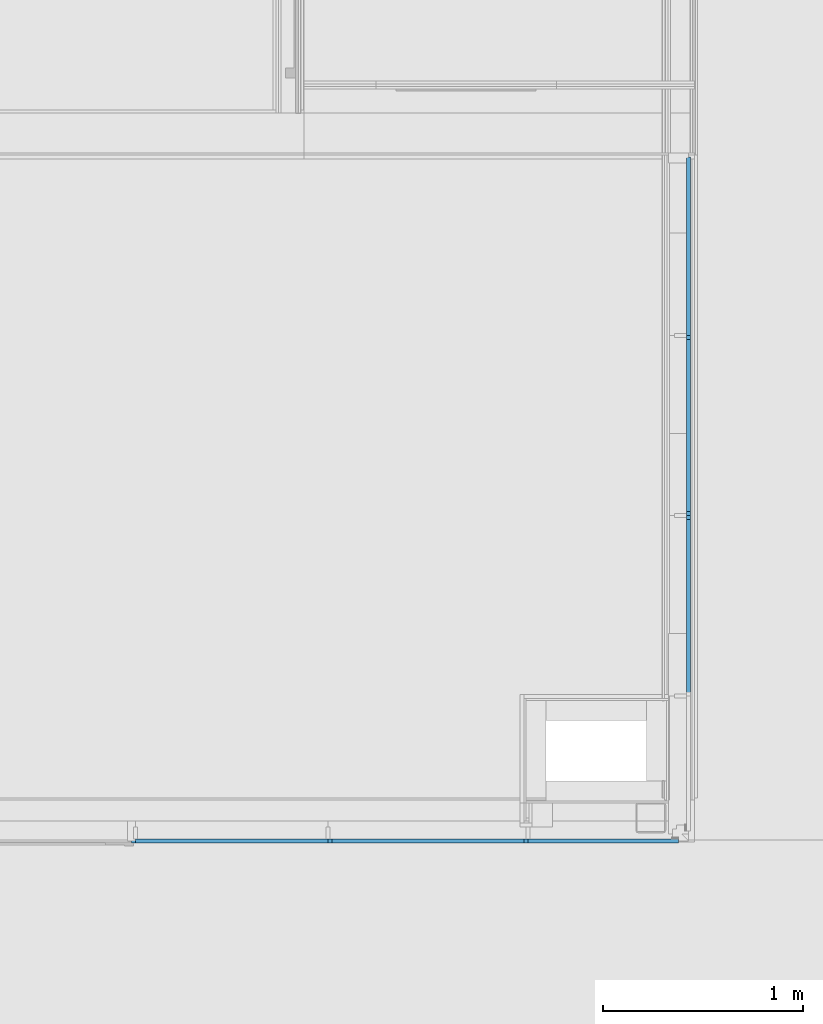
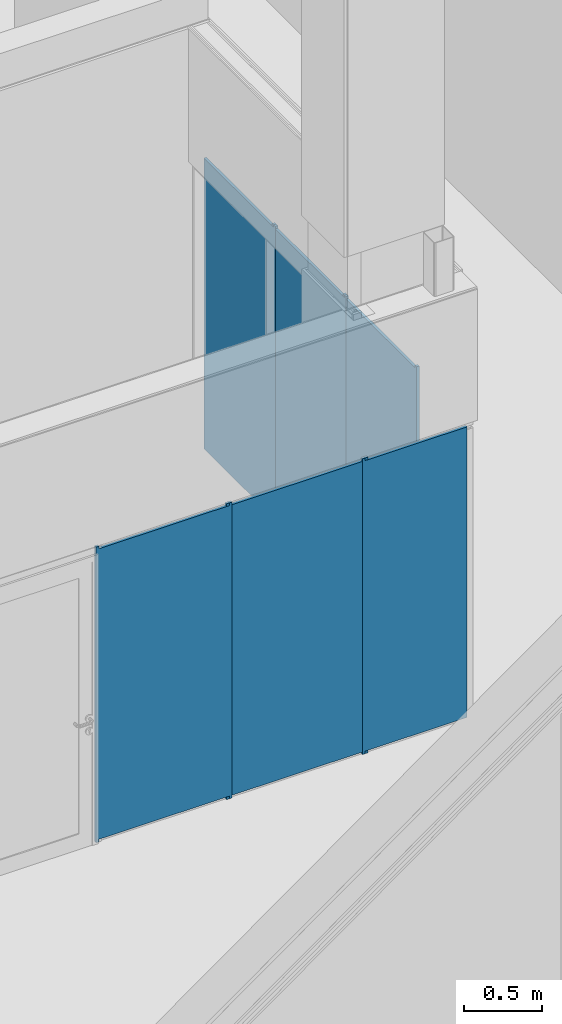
# One storey, part 19 of 139: 6 plates, 1 element without a shape of its own.
"""IFC2X3 building model written with IfcOpenShell, lengths in millimetres."""

from ifc_helpers import new_model, entity, si_unit, converted_unit, derived_unit, money_unit, direction, frame, origin_with_axes, place, context, subcontext, project, spatial, faceted_brep, source, transform, mapped, material, type_object, element, aggregate, save


model = new_model("IFC2X3")

# Units and contexts
model_context = context("Model", 3, precision=0.01, world=origin_with_axes(), true_north=direction((0.0, 1.0)))
body_context = subcontext(model_context, "Body", "Model", "MODEL_VIEW")
ifc_project = project(units=[si_unit("LENGTHUNIT", "METRE", prefix="MILLI"), si_unit("AREAUNIT", "SQUARE_METRE"), si_unit("VOLUMEUNIT", "CUBIC_METRE"), converted_unit("PLANEANGLEUNIT", "DEGREE", entity("IfcPlaneAngleMeasure", 0.0174532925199), si_unit("PLANEANGLEUNIT", "RADIAN"), dimensions=[0, 0, 0, 0, 0, 0, 0]), money_unit("EUR"), converted_unit("TIMEUNIT", "Year", entity("IfcTimeMeasure", 31556926.0), si_unit("TIMEUNIT", "SECOND"), dimensions=[0, 0, 1, 0, 0, 0, 0]), si_unit("MASSUNIT", "GRAM", prefix="KILO"), si_unit("THERMODYNAMICTEMPERATUREUNIT", "DEGREE_CELSIUS"), si_unit("LUMINOUSINTENSITYUNIT", "LUMEN"), si_unit("ENERGYUNIT", "JOULE", prefix="MEGA"), derived_unit("THERMALCONDUCTANCEUNIT", [(si_unit("POWERUNIT", "WATT"), 1), (si_unit("LENGTHUNIT", "METRE"), -1), (si_unit("THERMODYNAMICTEMPERATUREUNIT", "KELVIN"), -1)]), derived_unit("SPECIFICHEATCAPACITYUNIT", [(si_unit("ENERGYUNIT", "JOULE"), 1), (si_unit("MASSUNIT", "GRAM", prefix="KILO"), -1), (si_unit("THERMODYNAMICTEMPERATUREUNIT", "KELVIN"), -1)]), derived_unit("MASSDENSITYUNIT", [(si_unit("MASSUNIT", "GRAM", prefix="KILO"), 1), (si_unit("VOLUMEUNIT", "CUBIC_METRE"), -1)])], contexts=[model_context])

# Site, building, storey
site_placement = place(None, origin_with_axes())
site = spatial("IfcSite", under=ifc_project, at=site_placement, Name="Kolde pst 67a", CompositionType="ELEMENT")
building_placement = place(site_placement, origin_with_axes())
building = spatial("IfcBuilding", under=site, at=building_placement, Name="Riigigümnaasium", CompositionType="ELEMENT")
storey_placement = place(building_placement, frame((0.0, 0.0, 4600.0), z_axis=(0.0, 0.0, 1.0), x_axis=(1.0, 0.0, 0.0)))
storey = spatial("IfcBuildingStorey", under=building, at=storey_placement, Name="2. korrus", CompositionType="ELEMENT", Elevation=4600.0)

# Curtain wall, plates
curtain_wall_type = type_object("IfcCurtainWallType", Name="Curtain Wall Type", PredefinedType="NOTDEFINED")
curtain_wall_placement = place(storey_placement, frame((71469.9681221, 10694.9619432, -0.000132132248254), z_axis=(0.0, 0.0, 1.0), x_axis=(1.0, 0.0, 0.0)))
curtain_wall = element("IfcCurtainWall", 1, at=curtain_wall_placement, inside=storey, type_object=curtain_wall_type, Name="KLAASSEIN")
ifc_material = material(Name="_GENEERILINE MATERJAL KLAAS")
plate_type_1 = type_object("IfcPlateType", Name="Distinct Panel 20 x 20 x 20", PredefinedType="NOTDEFINED")
shared_shape_1 = source(origin_with_axes(), body_context, "Body", "Brep", [
    faceted_brep([(1020.00000433, 2300.00015753, -10.0), (999.999995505, 2300.00015753, -10.0), (999.999995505, 2300.00015753, 10.0), (1020.00000433, 2300.00015753, 10.0), (1020.00000433, 0.0, -10.0), (999.999995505, 0.0, -10.0), (999.999995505, 20.0000088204, -10.0), (39.937675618, 20.0000088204, -10.0), (39.937675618, 0.0, -10.0), (19.9376667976, 0.0, -10.0), (19.9376667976, 2300.00015753, -10.0), (39.937675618, 2300.00015753, -10.0), (39.937675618, 2280.00014871, -10.0), (999.999995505, 2280.00014871, -10.0), (999.999995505, 2280.00014871, 10.0), (39.937675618, 2280.00014871, 10.0), (39.937675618, 2300.00015753, 10.0), (19.9376667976, 2300.00015753, 10.0), (19.9376667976, 0.0, 10.0), (39.937675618, 0.0, 10.0), (39.937675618, 20.0000088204, 10.0), (999.999995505, 20.0000088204, 10.0), (999.999995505, 0.0, 10.0), (1020.00000433, 0.0, 10.0)], [[[0, 1, 2, 3]], [[0, 4, 5, 6, 7, 8, 9, 10, 11, 12, 13, 1]], [[1, 13, 14, 2]], [[3, 2, 14, 15, 16, 17, 18, 19, 20, 21, 22, 23]], [[4, 0, 3, 23]], [[5, 4, 23, 22]], [[6, 5, 22, 21]], [[7, 6, 21, 20]], [[8, 7, 20, 19]], [[9, 8, 19, 18]], [[10, 9, 18, 17]], [[11, 10, 17, 16]], [[12, 11, 16, 15]], [[13, 12, 15, 14]]]),
])
plate_1_placement = place(curtain_wall_placement, frame((0.0, 0.0, 1150.00010362), z_axis=(0.0, 0.0, 1.0), x_axis=(-1.0, -1.67821845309e-09, 0.0)))
plate_1 = element("IfcPlate", 2, at=plate_1_placement, type_object=plate_type_1, material=ifc_material, Name="Klaasseina uks", context=body_context, shape_type="MappedRepresentation", body=[
    mapped(shared_shape_1, transform((519.968833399, 0.0, -1150.00007877), x_axis=(-1.0, 1.67821845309e-09, 0.0), y_axis=(0.0, 0.0, 1.0), z_axis=(1.67821845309e-09, 1.0, 0.0))),
])
shared_shape_2 = source(origin_with_axes(), body_context, "Body", "Brep", [
    faceted_brep([(1020.00001547, 2300.00008695, -10.0), (1000.00000727, 2300.00008695, -10.0), (1000.00000727, 2300.00008695, 10.0), (1020.00001547, 2300.00008695, 10.0), (1020.00001547, 0.0, -10.0), (1000.00000727, 0.0, -10.0), (1000.00000727, 20.0000082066, -10.0), (8.20664070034e-06, 20.0000082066, -10.0), (8.20664070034e-06, 0.0, -10.0), (-20.0, 0.0, -10.0), (-20.0, 2300.00008695, -10.0), (8.20664070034e-06, 2300.00008695, -10.0), (8.20664070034e-06, 2280.00007874, -10.0), (1000.00000727, 2280.00007874, -10.0), (1000.00000727, 2280.00007874, 10.0), (8.20664070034e-06, 2280.00007874, 10.0), (8.20664070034e-06, 2300.00008695, 10.0), (-20.0, 2300.00008695, 10.0), (-20.0, 0.0, 10.0), (8.20664070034e-06, 0.0, 10.0), (8.20664070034e-06, 20.0000082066, 10.0), (1000.00000727, 20.0000082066, 10.0), (1000.00000727, 0.0, 10.0), (1020.00001547, 0.0, 10.0)], [[[0, 1, 2, 3]], [[0, 4, 5, 6, 7, 8, 9, 10, 11, 12, 13, 1]], [[1, 13, 14, 2]], [[3, 2, 14, 15, 16, 17, 18, 19, 20, 21, 22, 23]], [[4, 0, 3, 23]], [[5, 4, 23, 22]], [[6, 5, 22, 21]], [[7, 6, 21, 20]], [[8, 7, 20, 19]], [[9, 8, 19, 18]], [[10, 9, 18, 17]], [[11, 10, 17, 16]], [[12, 11, 16, 15]], [[13, 12, 15, 14]]]),
])
plate_2_placement = place(curtain_wall_placement, frame((980.031166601, 1.64470748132e-06, 1150.00010362), z_axis=(0.0, 0.0, 1.0), x_axis=(-1.0, -1.67822022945e-09, 0.0)))
plate_2 = element("IfcPlate", 3, at=plate_2_placement, type_object=plate_type_1, material=ifc_material, Name="RF PANEEL ERI-023", context=body_context, shape_type="MappedRepresentation", body=[
    mapped(shared_shape_2, transform((500.0, 0.0, -1150.00007877), x_axis=(-1.0, 1.67822022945e-09, 0.0), y_axis=(0.0, 0.0, 1.0), z_axis=(1.67822022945e-09, 1.0, 0.0))),
])
shared_shape_3 = source(origin_with_axes(), body_context, "Body", "Brep", [
    faceted_brep([(608.855486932, 2300.00014524, -10.0), (588.855478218, 2300.00014524, -10.0), (588.855478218, 2300.00014524, 10.0), (608.855486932, 2300.00014524, 10.0), (608.855486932, 0.0, -10.0), (588.855478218, 0.0, -10.0), (588.855478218, 20.0000087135, -10.0), (1.52174219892e-05, 20.0000087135, -10.0), (-311.656296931, 20.0000087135, -10.0), (-311.656296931, 0.0, -10.0), (-331.656305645, 0.0, -10.0), (-331.656305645, 2300.00014524, -10.0), (-311.656296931, 2300.00014524, -10.0), (-311.656296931, 2280.00013653, -10.0), (1.52174219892e-05, 2280.00013653, -10.0), (588.855478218, 2280.00013653, -10.0), (588.855478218, 2280.00013653, 10.0), (1.52174219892e-05, 2280.00013653, 10.0), (-311.656296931, 2280.00013653, 10.0), (-311.656296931, 2300.00014524, 10.0), (-331.656305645, 2300.00014524, 10.0), (-331.656305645, 0.0, 10.0), (-311.656296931, 0.0, 10.0), (-311.656296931, 20.0000087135, 10.0), (1.52174219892e-05, 20.0000087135, 10.0), (588.855478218, 20.0000087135, 10.0), (588.855478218, 0.0, 10.0), (608.855486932, 0.0, 10.0)], [[[0, 1, 2, 3]], [[0, 4, 5, 6, 7, 8, 9, 10, 11, 12, 13, 14, 15, 1]], [[1, 15, 16, 2]], [[3, 2, 16, 17, 18, 19, 20, 21, 22, 23, 24, 25, 26, 27]], [[4, 0, 3, 27]], [[5, 4, 27, 26]], [[6, 5, 26, 25]], [[7, 6, 25, 24]], [[8, 7, 24, 23]], [[9, 8, 23, 22]], [[10, 9, 22, 21]], [[11, 10, 21, 20]], [[12, 11, 20, 19]], [[13, 12, 19, 18]], [[14, 13, 18, 17]], [[15, 14, 17, 16]]]),
])
plate_3_placement = place(curtain_wall_placement, frame((2279.75189028, 1127.39972349, 1150.00007262), z_axis=(0.0, 0.0, 1.0), x_axis=(0.0, -1.0, 0.0)))
plate_3 = element("IfcPlate", 4, at=plate_3_placement, type_object=plate_type_1, material=ifc_material, Name="RF PANEEL ERI-023", context=body_context, shape_type="MappedRepresentation", body=[
    mapped(shared_shape_3, transform((92.3997196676, 0.0, -1150.00007262), x_axis=(-1.0, 0.0, 0.0), y_axis=(0.0, 0.0, 1.0), z_axis=(0.0, 1.0, 0.0))),
])
plate_type_2 = type_object("IfcPlateType", Name="Distinct Panel 20 x 2300 x 20", PredefinedType="NOTDEFINED")
shared_shape_4 = source(origin_with_axes(), body_context, "Body", "Brep", [
    faceted_brep([(8.82042172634e-06, 2300.00015753, -10.0), (-20.0, 2300.00015753, -10.0), (-20.0, 2300.00015753, 10.0), (8.82042172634e-06, 2300.00015753, 10.0), (8.82042172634e-06, 2280.00014871, -10.0), (749.720725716, 2280.00014871, -10.0), (749.720725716, 19.9999745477, -10.0), (8.82042172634e-06, 19.9999745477, -10.0), (8.82042172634e-06, 0.0, -10.0), (-20.0, 0.0, -10.0), (-20.0, 0.0, 10.0), (8.82042172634e-06, 0.0, 10.0), (8.82042172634e-06, 19.9999745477, 10.0), (749.720725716, 19.9999745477, 10.0), (749.720725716, 2280.00014871, 10.0), (8.82042172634e-06, 2280.00014871, 10.0)], [[[0, 1, 2, 3]], [[0, 4, 5, 6, 7, 8, 9, 1]], [[1, 9, 10, 2]], [[3, 2, 10, 11, 12, 13, 14, 15]], [[4, 0, 3, 15]], [[5, 4, 15, 14]], [[6, 5, 14, 13]], [[7, 6, 13, 12]], [[8, 7, 12, 11]], [[9, 8, 11, 10]]]),
])
plate_4_placement = place(curtain_wall_placement, frame((1879.89152844, 3.15487014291e-06, 1150.0000974), z_axis=(0.0, 0.0, 1.0), x_axis=(-1.0, -1.67821944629e-09, 0.0)))
plate_4 = element("IfcPlate", 5, at=plate_4_placement, type_object=plate_type_2, material=ifc_material, Name="RF PANEEL ERI-023", context=body_context, shape_type="MappedRepresentation", body=[
    mapped(shared_shape_4, transform((399.860361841, 0.0, -1150.00007255), x_axis=(-1.0, 1.67821944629e-09, 0.0), y_axis=(0.0, 0.0, 1.0), z_axis=(1.67821944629e-09, 1.0, 0.0))),
])
shared_shape_5 = source(origin_with_axes(), body_context, "Body", "Brep", [
    faceted_brep([(488.855483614, 2300.00014524, -10.0), (468.8554749, 2300.00014524, -10.0), (468.8554749, 2300.00014524, 10.0), (488.855483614, 2300.00014524, 10.0), (488.855483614, 2280.00013653, -10.0), (1000.00002004, 2280.00013653, -10.0), (1379.40342925, 2280.00013653, -10.0), (1379.40342925, 20.0000087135, -10.0), (1000.00002004, 20.0000087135, -10.0), (488.855483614, 20.0000087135, -10.0), (488.855483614, 0.0, -10.0), (468.8554749, 0.0, -10.0), (468.8554749, 0.0, 10.0), (488.855483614, 0.0, 10.0), (488.855483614, 20.0000087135, 10.0), (1000.00002004, 20.0000087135, 10.0), (1379.40342925, 20.0000087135, 10.0), (1379.40342925, 2280.00013653, 10.0), (1000.00002004, 2280.00013653, 10.0), (488.855483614, 2280.00013653, 10.0)], [[[0, 1, 2, 3]], [[0, 4, 5, 6, 7, 8, 9, 10, 11, 1]], [[1, 11, 12, 2]], [[3, 2, 12, 13, 14, 15, 16, 17, 18, 19]], [[4, 0, 3, 19]], [[5, 4, 19, 18]], [[6, 5, 18, 17]], [[7, 6, 17, 16]], [[8, 7, 16, 15]], [[9, 8, 15, 14]], [[10, 9, 14, 13]], [[11, 10, 13, 12]]]),
])
plate_5_placement = place(curtain_wall_placement, frame((2279.75189028, 2997.75296559, 1150.00007262), z_axis=(0.0, 0.0, 1.0), x_axis=(0.0, -1.0, 0.0)))
plate_5 = element("IfcPlate", 6, at=plate_5_placement, type_object=plate_type_2, material=ifc_material, Name="RF PANEEL ERI-023", context=body_context, shape_type="MappedRepresentation", body=[
    mapped(shared_shape_5, transform((962.752961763, 0.0, -1150.00007262), x_axis=(-1.0, 0.0, 0.0), y_axis=(0.0, 0.0, 1.0), z_axis=(0.0, 1.0, 0.0))),
])
shared_shape_6 = source(origin_with_axes(), body_context, "Body", "Brep", [
    faceted_brep([(1508.85549718, 2300.00014524, -10.0), (1488.85548847, 2300.00014524, -10.0), (1488.85548847, 2300.00014524, 10.0), (1508.85549718, 2300.00014524, 10.0), (1508.85549718, 0.0, -10.0), (1488.85548847, 0.0, -10.0), (1488.85548847, 20.0000087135, -10.0), (1000.00000049, 20.0000087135, -10.0), (588.855473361, 20.0000087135, -10.0), (588.855473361, 0.0, -10.0), (568.855464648, 0.0, -10.0), (568.855464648, 2300.00014524, -10.0), (588.855473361, 2300.00014524, -10.0), (588.855473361, 2280.00013653, -10.0), (1000.00000049, 2280.00013653, -10.0), (1488.85548847, 2280.00013653, -10.0), (1488.85548847, 2280.00013653, 10.0), (1000.00000049, 2280.00013653, 10.0), (588.855473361, 2280.00013653, 10.0), (588.855473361, 2300.00014524, 10.0), (568.855464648, 2300.00014524, 10.0), (568.855464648, 0.0, 10.0), (588.855473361, 0.0, 10.0), (588.855473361, 20.0000087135, 10.0), (1000.00000049, 20.0000087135, 10.0), (1488.85548847, 20.0000087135, 10.0), (1488.85548847, 0.0, 10.0), (1508.85549718, 0.0, 10.0)], [[[0, 1, 2, 3]], [[0, 4, 5, 6, 7, 8, 9, 10, 11, 12, 13, 14, 15, 1]], [[1, 15, 16, 2]], [[3, 2, 16, 17, 18, 19, 20, 21, 22, 23, 24, 25, 26, 27]], [[4, 0, 3, 27]], [[5, 4, 27, 26]], [[6, 5, 26, 25]], [[7, 6, 25, 24]], [[8, 7, 24, 23]], [[9, 8, 23, 22]], [[10, 9, 22, 21]], [[11, 10, 21, 20]], [[12, 11, 20, 19]], [[13, 12, 19, 18]], [[14, 13, 18, 17]], [[15, 14, 17, 16]]]),
])
plate_6_placement = place(curtain_wall_placement, frame((2279.75189028, 2060.90365034, 1150.00007262), z_axis=(0.0, 0.0, 1.0), x_axis=(0.0, -1.0, 0.0)))
plate_6 = element("IfcPlate", 7, at=plate_6_placement, type_object=plate_type_1, material=ifc_material, Name="RF PANEEL ERI-023", context=body_context, shape_type="MappedRepresentation", body=[
    mapped(shared_shape_6, transform((1025.90364652, 0.0, -1150.00007262), x_axis=(-1.0, 0.0, 0.0), y_axis=(0.0, 0.0, 1.0), z_axis=(0.0, 1.0, 0.0))),
])
aggregate(curtain_wall, [plate_1, plate_2, plate_3, plate_4, plate_5, plate_6])

save(model, "model.ifc")
